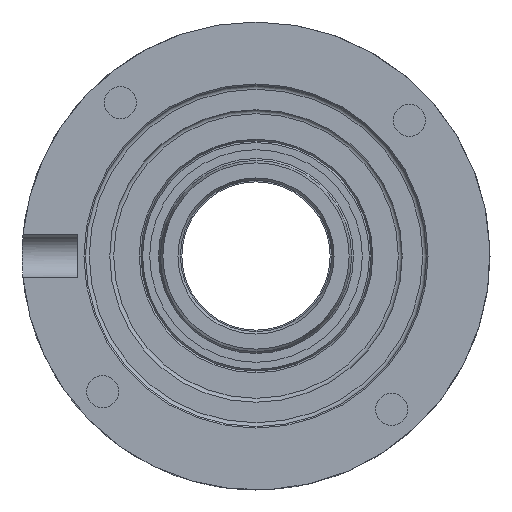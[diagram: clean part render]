
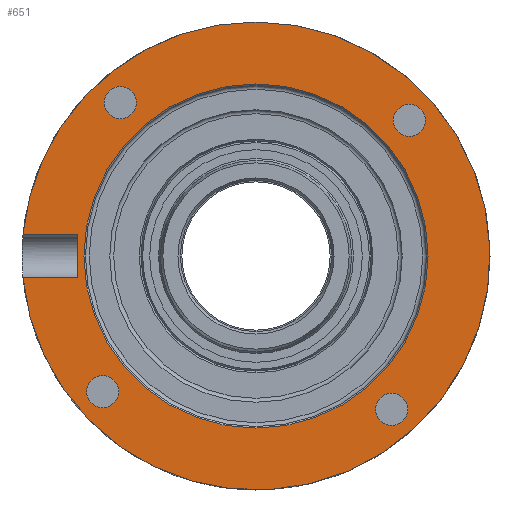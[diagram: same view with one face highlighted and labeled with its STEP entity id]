
A CAD part, left-side view. The second image highlights one B-rep face of the part: STEP entity #651.
In plain terms, the highlighted planar face has unit normal (-1, 0, 0).
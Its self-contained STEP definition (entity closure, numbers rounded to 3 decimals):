
#44 = EDGE_CURVE ( 'NONE', #421, #1851, #311, .T. ) ;
#49 = PLANE ( 'NONE',  #415 ) ;
#75 = DIRECTION ( 'NONE',  ( -1., 0., 0. ) ) ;
#85 = EDGE_LOOP ( 'NONE', ( #1449 ) ) ;
#108 = ORIENTED_EDGE ( 'NONE', *, *, #1771, .F. ) ;
#129 = ORIENTED_EDGE ( 'NONE', *, *, #1930, .F. ) ;
#135 = EDGE_CURVE ( 'NONE', #459, #459, #1803, .T. ) ;
#157 = CIRCLE ( 'NONE', #847, 24. ) ;
#165 = DIRECTION ( 'NONE',  ( 0., 0., 1. ) ) ;
#246 = CARTESIAN_POINT ( 'NONE',  ( 0., 18.3, 2.25 ) ) ;
#282 = FACE_BOUND ( 'NONE', #616, .T. ) ;
#307 = DIRECTION ( 'NONE',  ( -1., 0., 0. ) ) ;
#311 = LINE ( 'NONE', #627, #798 ) ;
#324 = CIRCLE ( 'NONE', #1256, 1.65 ) ;
#367 = DIRECTION ( 'NONE',  ( -1., 0., 0. ) ) ;
#376 = CARTESIAN_POINT ( 'NONE',  ( 0., 23.894, -2.25 ) ) ;
#386 = FACE_BOUND ( 'NONE', #969, .T. ) ;
#415 = AXIS2_PLACEMENT_3D ( 'NONE', #950, #1684, #1240 ) ;
#421 = VERTEX_POINT ( 'NONE', #246 ) ;
#455 = CARTESIAN_POINT ( 'NONE',  ( 0., 18.3, -2.25 ) ) ;
#457 = ORIENTED_EDGE ( 'NONE', *, *, #1575, .T. ) ;
#459 = VERTEX_POINT ( 'NONE', #589 ) ;
#483 = DIRECTION ( 'NONE',  ( -1., 0., 0. ) ) ;
#509 = VECTOR ( 'NONE', #848, 1000. ) ;
#515 = FACE_BOUND ( 'NONE', #1807, .T. ) ;
#560 = ORIENTED_EDGE ( 'NONE', *, *, #943, .F. ) ;
#589 = CARTESIAN_POINT ( 'NONE',  ( 0., 0., 17.65 ) ) ;
#593 = CARTESIAN_POINT ( 'NONE',  ( 0., 13.915, 17.378 ) ) ;
#616 = EDGE_LOOP ( 'NONE', ( #699 ) ) ;
#627 = CARTESIAN_POINT ( 'NONE',  ( 0., 18.3, 2.25 ) ) ;
#651 = ADVANCED_FACE ( 'NONE', ( #386, #282, #854, #515, #1351, #1374 ), #49, .T. ) ;
#658 = CARTESIAN_POINT ( 'NONE',  ( 0., 0., 0. ) ) ;
#699 = ORIENTED_EDGE ( 'NONE', *, *, #1677, .F. ) ;
#726 = VECTOR ( 'NONE', #1283, 1000. ) ;
#798 = VECTOR ( 'NONE', #1865, 1000. ) ;
#823 = DIRECTION ( 'NONE',  ( 0., 0., 1. ) ) ;
#829 = CIRCLE ( 'NONE', #873, 1.65 ) ;
#847 = AXIS2_PLACEMENT_3D ( 'NONE', #658, #1866, #1553 ) ;
#848 = DIRECTION ( 'NONE',  ( 0., 0., 1. ) ) ;
#854 = FACE_BOUND ( 'NONE', #858, .T. ) ;
#858 = EDGE_LOOP ( 'NONE', ( #108 ) ) ;
#864 = CARTESIAN_POINT ( 'NONE',  ( 0., 13.915, 15.728 ) ) ;
#873 = AXIS2_PLACEMENT_3D ( 'NONE', #983, #367, #1884 ) ;
#891 = AXIS2_PLACEMENT_3D ( 'NONE', #864, #1602, #1161 ) ;
#943 = EDGE_CURVE ( 'NONE', #1155, #1155, #1945, .T. ) ;
#944 = LINE ( 'NONE', #1773, #509 ) ;
#950 = CARTESIAN_POINT ( 'NONE',  ( 0., 0., 0. ) ) ;
#969 = EDGE_LOOP ( 'NONE', ( #560 ) ) ;
#970 = ORIENTED_EDGE ( 'NONE', *, *, #1186, .T. ) ;
#983 = CARTESIAN_POINT ( 'NONE',  ( 0., 15.728, -13.915 ) ) ;
#1018 = CARTESIAN_POINT ( 'NONE',  ( 0., 0., 0. ) ) ;
#1031 = EDGE_LOOP ( 'NONE', ( #970, #457, #1837, #1174 ) ) ;
#1036 = AXIS2_PLACEMENT_3D ( 'NONE', #1068, #307, #165 ) ;
#1068 = CARTESIAN_POINT ( 'NONE',  ( 0., -13.915, -15.728 ) ) ;
#1082 = CIRCLE ( 'NONE', #1036, 1.65 ) ;
#1089 = AXIS2_PLACEMENT_3D ( 'NONE', #1018, #75, #1927 ) ;
#1122 = EDGE_CURVE ( 'NONE', #1760, #421, #944, .T. ) ;
#1137 = VERTEX_POINT ( 'NONE', #1599 ) ;
#1155 = VERTEX_POINT ( 'NONE', #593 ) ;
#1161 = DIRECTION ( 'NONE',  ( 0., 0., 1. ) ) ;
#1174 = ORIENTED_EDGE ( 'NONE', *, *, #1122, .F. ) ;
#1186 = EDGE_CURVE ( 'NONE', #1760, #1194, #1831, .T. ) ;
#1194 = VERTEX_POINT ( 'NONE', #376 ) ;
#1240 = DIRECTION ( 'NONE',  ( 0., 0., 1. ) ) ;
#1250 = CARTESIAN_POINT ( 'NONE',  ( 0., -15.728, 13.915 ) ) ;
#1256 = AXIS2_PLACEMENT_3D ( 'NONE', #1250, #483, #823 ) ;
#1283 = DIRECTION ( 'NONE',  ( 0., 1., 0. ) ) ;
#1351 = FACE_OUTER_BOUND ( 'NONE', #1031, .T. ) ;
#1374 = FACE_BOUND ( 'NONE', #85, .T. ) ;
#1449 = ORIENTED_EDGE ( 'NONE', *, *, #135, .F. ) ;
#1456 = CARTESIAN_POINT ( 'NONE',  ( 0., 15.728, -12.265 ) ) ;
#1553 = DIRECTION ( 'NONE',  ( 0., 0., 1. ) ) ;
#1575 = EDGE_CURVE ( 'NONE', #1194, #1851, #157, .T. ) ;
#1599 = CARTESIAN_POINT ( 'NONE',  ( 0., -13.915, -14.078 ) ) ;
#1602 = DIRECTION ( 'NONE',  ( -1., 0., 0. ) ) ;
#1605 = CARTESIAN_POINT ( 'NONE',  ( 0., 18.3, -2.25 ) ) ;
#1657 = VERTEX_POINT ( 'NONE', #1456 ) ;
#1677 = EDGE_CURVE ( 'NONE', #1937, #1937, #324, .T. ) ;
#1684 = DIRECTION ( 'NONE',  ( -1., 0., 0. ) ) ;
#1755 = CARTESIAN_POINT ( 'NONE',  ( 0., -15.728, 15.565 ) ) ;
#1760 = VERTEX_POINT ( 'NONE', #455 ) ;
#1771 = EDGE_CURVE ( 'NONE', #1137, #1137, #1082, .T. ) ;
#1773 = CARTESIAN_POINT ( 'NONE',  ( 0., 18.3, 2.25 ) ) ;
#1803 = CIRCLE ( 'NONE', #1089, 17.65 ) ;
#1807 = EDGE_LOOP ( 'NONE', ( #129 ) ) ;
#1831 = LINE ( 'NONE', #1605, #726 ) ;
#1837 = ORIENTED_EDGE ( 'NONE', *, *, #44, .F. ) ;
#1851 = VERTEX_POINT ( 'NONE', #1926 ) ;
#1865 = DIRECTION ( 'NONE',  ( 0., 1., 0. ) ) ;
#1866 = DIRECTION ( 'NONE',  ( -1., 0., 0. ) ) ;
#1884 = DIRECTION ( 'NONE',  ( 0., 0., 1. ) ) ;
#1926 = CARTESIAN_POINT ( 'NONE',  ( 0., 23.894, 2.25 ) ) ;
#1927 = DIRECTION ( 'NONE',  ( 0., 0., 1. ) ) ;
#1930 = EDGE_CURVE ( 'NONE', #1657, #1657, #829, .T. ) ;
#1937 = VERTEX_POINT ( 'NONE', #1755 ) ;
#1945 = CIRCLE ( 'NONE', #891, 1.65 ) ;
